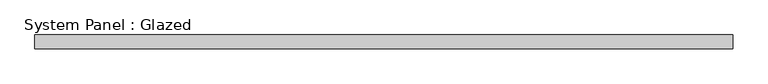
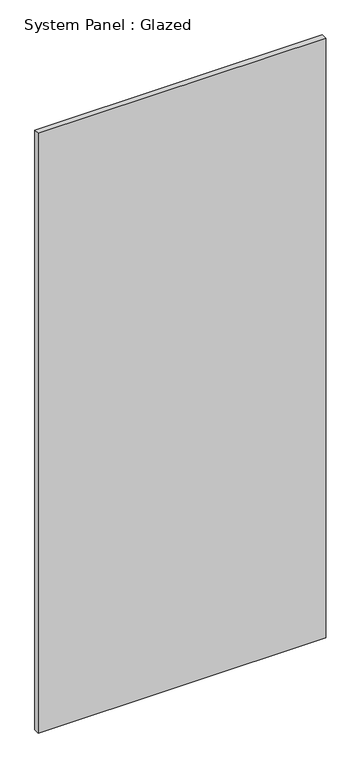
"""IFC4 building model written with IfcOpenShell, lengths in millimetres: plate geometry, System Panel : Glazed."""

from ifc_helpers import new_model, si_unit, origin, origin_with_axes, place, context, project, spatial, polyline, outline, extrude, source, transform, mapped, element, save


def system_panel_glazed_1599020c(model_context):
    return source(origin(), model_context, "Body", "SweptSolid", [
        extrude(outline(polyline([(634.9999998, 0.0), (-634.9999998, 0.0), (-634.9999998, 25.0), (634.9999998, 25.0), (634.9999998, 0.0)])), origin_with_axes(), (0.0, 0.0, 1.0), 2800.0),
    ])


if __name__ == "__main__":
    model = new_model("IFC4")
    model_context = context("Model", 3, world=origin())
    ifc_project = project(units=[si_unit("LENGTHUNIT", "METRE", prefix="MILLI")], contexts=[model_context])
    site = spatial("IfcSite", under=ifc_project)
    building = spatial("IfcBuilding", under=site)
    placement = place(None, origin())
    system_panel_glazed_shape = system_panel_glazed_1599020c(model_context)
    element("IfcPlate", 1, ObjectType="System Panel : Glazed", at=placement, inside=building, context=model_context, shape_type="MappedRepresentation", body=[
        mapped(system_panel_glazed_shape, transform((0.0, 0.0, 0.0), x_axis=(1.0, 0.0, 0.0), y_axis=(0.0, 1.0, 0.0), z_axis=(0.0, 0.0, 1.0))),
    ])
    save(model, "model.ifc")
